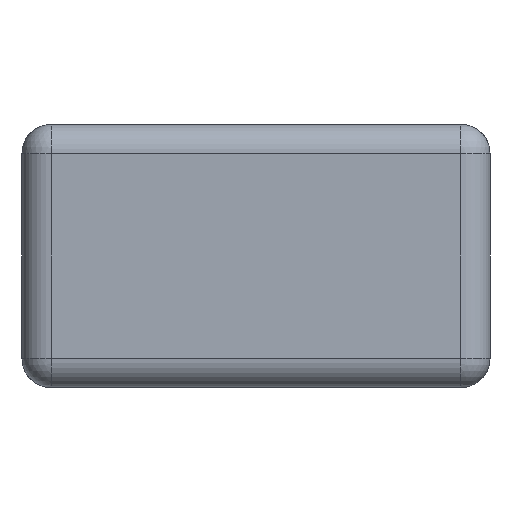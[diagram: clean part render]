
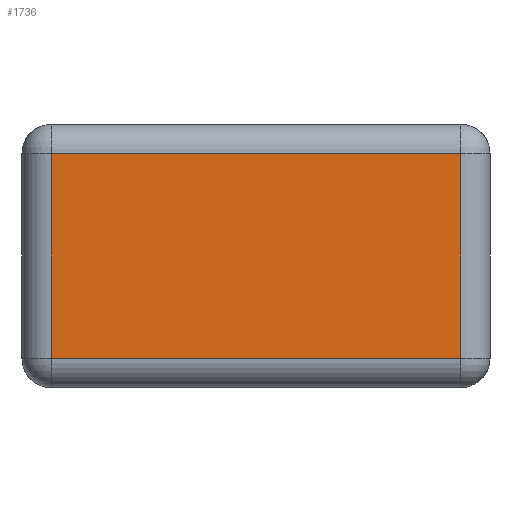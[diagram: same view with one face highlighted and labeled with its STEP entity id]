
A CAD part, left-side view. The second image highlights one B-rep face of the part: STEP entity #1736.
In plain terms, the highlighted planar face has unit normal (-1, 0, 0).
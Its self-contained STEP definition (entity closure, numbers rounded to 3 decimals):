
#296 = CYLINDRICAL_SURFACE('',#297,0.05);
#297 = AXIS2_PLACEMENT_3D('',#298,#299,#300);
#298 = CARTESIAN_POINT('',(-0.7,0.35,0.436));
#299 = DIRECTION('',(0.,0.,-1.));
#300 = DIRECTION('',(0.,1.,0.));
#438 = CYLINDRICAL_SURFACE('',#439,0.05);
#439 = AXIS2_PLACEMENT_3D('',#440,#441,#442);
#440 = CARTESIAN_POINT('',(-0.7,-0.35,0.436));
#441 = DIRECTION('',(0.,0.,-1.));
#442 = DIRECTION('',(0.,1.,0.));
#1725 = CYLINDRICAL_SURFACE('',#1726,0.05);
#1726 = AXIS2_PLACEMENT_3D('',#1727,#1728,#1729);
#1727 = CARTESIAN_POINT('',(-0.7,-0.4,0.436));
#1728 = DIRECTION('',(0.,1.,0.));
#1729 = DIRECTION('',(-1.,0.,0.));
#1736 = ADVANCED_FACE('',(#1737),#1751,.F.);
#1737 = FACE_BOUND('',#1738,.T.);
#1738 = EDGE_LOOP('',(#1739,#1774,#1797,#1820));
#1739 = ORIENTED_EDGE('',*,*,#1740,.T.);
#1740 = EDGE_CURVE('',#1741,#1743,#1745,.T.);
#1741 = VERTEX_POINT('',#1742);
#1742 = CARTESIAN_POINT('',(-0.75,0.35,0.086));
#1743 = VERTEX_POINT('',#1744);
#1744 = CARTESIAN_POINT('',(-0.75,-0.35,0.086));
#1745 = SURFACE_CURVE('',#1746,(#1750,#1762),.PCURVE_S1.);
#1746 = LINE('',#1747,#1748);
#1747 = CARTESIAN_POINT('',(-0.75,-0.4,0.086));
#1748 = VECTOR('',#1749,1.);
#1749 = DIRECTION('',(0.,-1.,0.));
#1750 = PCURVE('',#1751,#1756);
#1751 = PLANE('',#1752);
#1752 = AXIS2_PLACEMENT_3D('',#1753,#1754,#1755);
#1753 = CARTESIAN_POINT('',(-0.75,-0.4,0.436));
#1754 = DIRECTION('',(1.,0.,0.));
#1755 = DIRECTION('',(0.,1.,0.));
#1756 = DEFINITIONAL_REPRESENTATION('',(#1757),#1761);
#1757 = LINE('',#1758,#1759);
#1758 = CARTESIAN_POINT('',(0.,-0.35));
#1759 = VECTOR('',#1760,1.);
#1760 = DIRECTION('',(-1.,0.));
#1761 = ( GEOMETRIC_REPRESENTATION_CONTEXT(2) 
PARAMETRIC_REPRESENTATION_CONTEXT() REPRESENTATION_CONTEXT('2D SPACE',''
  ) );
#1762 = PCURVE('',#1763,#1768);
#1763 = CYLINDRICAL_SURFACE('',#1764,0.05);
#1764 = AXIS2_PLACEMENT_3D('',#1765,#1766,#1767);
#1765 = CARTESIAN_POINT('',(-0.7,-0.4,0.086));
#1766 = DIRECTION('',(0.,1.,0.));
#1767 = DIRECTION('',(-1.,0.,0.));
#1768 = DEFINITIONAL_REPRESENTATION('',(#1769),#1773);
#1769 = LINE('',#1770,#1771);
#1770 = CARTESIAN_POINT('',(6.283,0.));
#1771 = VECTOR('',#1772,1.);
#1772 = DIRECTION('',(0.,-1.));
#1773 = ( GEOMETRIC_REPRESENTATION_CONTEXT(2) 
PARAMETRIC_REPRESENTATION_CONTEXT() REPRESENTATION_CONTEXT('2D SPACE',''
  ) );
#1774 = ORIENTED_EDGE('',*,*,#1775,.T.);
#1775 = EDGE_CURVE('',#1743,#1776,#1778,.T.);
#1776 = VERTEX_POINT('',#1777);
#1777 = CARTESIAN_POINT('',(-0.75,-0.35,0.436));
#1778 = SURFACE_CURVE('',#1779,(#1783,#1790),.PCURVE_S1.);
#1779 = LINE('',#1780,#1781);
#1780 = CARTESIAN_POINT('',(-0.75,-0.35,0.436));
#1781 = VECTOR('',#1782,1.);
#1782 = DIRECTION('',(0.,0.,1.));
#1783 = PCURVE('',#1751,#1784);
#1784 = DEFINITIONAL_REPRESENTATION('',(#1785),#1789);
#1785 = LINE('',#1786,#1787);
#1786 = CARTESIAN_POINT('',(0.05,0.));
#1787 = VECTOR('',#1788,1.);
#1788 = DIRECTION('',(0.,1.));
#1789 = ( GEOMETRIC_REPRESENTATION_CONTEXT(2) 
PARAMETRIC_REPRESENTATION_CONTEXT() REPRESENTATION_CONTEXT('2D SPACE',''
  ) );
#1790 = PCURVE('',#438,#1791);
#1791 = DEFINITIONAL_REPRESENTATION('',(#1792),#1796);
#1792 = LINE('',#1793,#1794);
#1793 = CARTESIAN_POINT('',(4.712,0.));
#1794 = VECTOR('',#1795,1.);
#1795 = DIRECTION('',(0.,-1.));
#1796 = ( GEOMETRIC_REPRESENTATION_CONTEXT(2) 
PARAMETRIC_REPRESENTATION_CONTEXT() REPRESENTATION_CONTEXT('2D SPACE',''
  ) );
#1797 = ORIENTED_EDGE('',*,*,#1798,.T.);
#1798 = EDGE_CURVE('',#1776,#1799,#1801,.T.);
#1799 = VERTEX_POINT('',#1800);
#1800 = CARTESIAN_POINT('',(-0.75,0.35,0.436));
#1801 = SURFACE_CURVE('',#1802,(#1806,#1813),.PCURVE_S1.);
#1802 = LINE('',#1803,#1804);
#1803 = CARTESIAN_POINT('',(-0.75,-0.4,0.436));
#1804 = VECTOR('',#1805,1.);
#1805 = DIRECTION('',(0.,1.,0.));
#1806 = PCURVE('',#1751,#1807);
#1807 = DEFINITIONAL_REPRESENTATION('',(#1808),#1812);
#1808 = LINE('',#1809,#1810);
#1809 = CARTESIAN_POINT('',(0.,0.));
#1810 = VECTOR('',#1811,1.);
#1811 = DIRECTION('',(1.,0.));
#1812 = ( GEOMETRIC_REPRESENTATION_CONTEXT(2) 
PARAMETRIC_REPRESENTATION_CONTEXT() REPRESENTATION_CONTEXT('2D SPACE',''
  ) );
#1813 = PCURVE('',#1725,#1814);
#1814 = DEFINITIONAL_REPRESENTATION('',(#1815),#1819);
#1815 = LINE('',#1816,#1817);
#1816 = CARTESIAN_POINT('',(0.,0.));
#1817 = VECTOR('',#1818,1.);
#1818 = DIRECTION('',(0.,1.));
#1819 = ( GEOMETRIC_REPRESENTATION_CONTEXT(2) 
PARAMETRIC_REPRESENTATION_CONTEXT() REPRESENTATION_CONTEXT('2D SPACE',''
  ) );
#1820 = ORIENTED_EDGE('',*,*,#1821,.T.);
#1821 = EDGE_CURVE('',#1799,#1741,#1822,.T.);
#1822 = SURFACE_CURVE('',#1823,(#1827,#1834),.PCURVE_S1.);
#1823 = LINE('',#1824,#1825);
#1824 = CARTESIAN_POINT('',(-0.75,0.35,0.436));
#1825 = VECTOR('',#1826,1.);
#1826 = DIRECTION('',(0.,0.,-1.));
#1827 = PCURVE('',#1751,#1828);
#1828 = DEFINITIONAL_REPRESENTATION('',(#1829),#1833);
#1829 = LINE('',#1830,#1831);
#1830 = CARTESIAN_POINT('',(0.75,0.));
#1831 = VECTOR('',#1832,1.);
#1832 = DIRECTION('',(0.,-1.));
#1833 = ( GEOMETRIC_REPRESENTATION_CONTEXT(2) 
PARAMETRIC_REPRESENTATION_CONTEXT() REPRESENTATION_CONTEXT('2D SPACE',''
  ) );
#1834 = PCURVE('',#296,#1835);
#1835 = DEFINITIONAL_REPRESENTATION('',(#1836),#1840);
#1836 = LINE('',#1837,#1838);
#1837 = CARTESIAN_POINT('',(4.712,0.));
#1838 = VECTOR('',#1839,1.);
#1839 = DIRECTION('',(0.,1.));
#1840 = ( GEOMETRIC_REPRESENTATION_CONTEXT(2) 
PARAMETRIC_REPRESENTATION_CONTEXT() REPRESENTATION_CONTEXT('2D SPACE',''
  ) );
